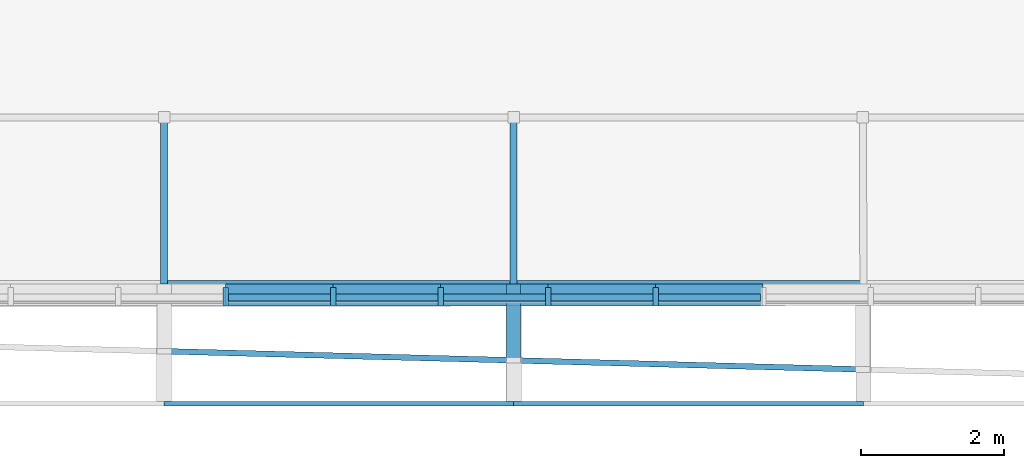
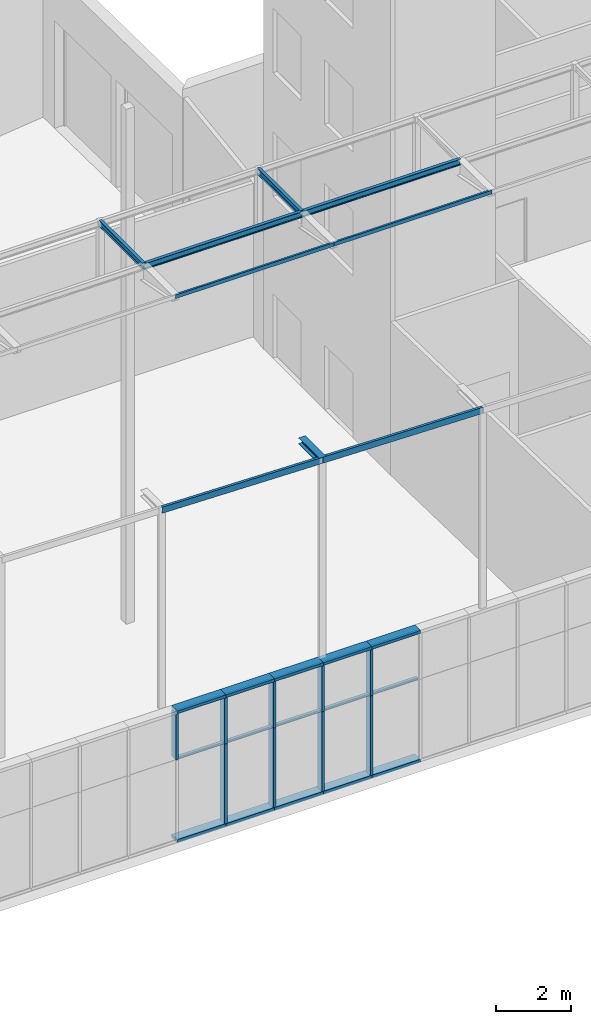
# One storey, part 7 of 40: 29 members, 9 beams, 1 element without a shape of its own.
"""IFC2X3 building model written with IfcOpenShell, lengths in metres."""

from ifc_helpers import new_model, entity, si_unit, converted_unit, money_unit, point, direction, frame, frame_2d, origin_with_axes, place, context, subcontext, project, spatial, polyline, circle_curve, parameter, trimmed, segment, composite_curve, outline, extrude, clip, halfspace, material, type_object, element, aggregate, save


model = new_model("IFC2X3")

# Units and contexts
model_context = context("Model", 3, precision=1e-05, world=origin_with_axes(), true_north=direction((0.0, 1.0)))
body_context = subcontext(model_context, "Body", "Model", "MODEL_VIEW")
ifc_project = project(units=[si_unit("LENGTHUNIT", "METRE"), si_unit("AREAUNIT", "SQUARE_METRE"), si_unit("VOLUMEUNIT", "CUBIC_METRE"), converted_unit("PLANEANGLEUNIT", "DEGREE", entity("IfcPlaneAngleMeasure", 0.0174532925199), si_unit("PLANEANGLEUNIT", "RADIAN"), dimensions=[0, 0, 0, 0, 0, 0, 0]), si_unit("SOLIDANGLEUNIT", "STERADIAN"), money_unit("EUR"), converted_unit("TIMEUNIT", "Year", entity("IfcTimeMeasure", 31556926.0), si_unit("TIMEUNIT", "SECOND"), dimensions=[0, 0, 0, 0, 0, 0, 0]), si_unit("MASSUNIT", "GRAM"), si_unit("THERMODYNAMICTEMPERATUREUNIT", "DEGREE_CELSIUS"), si_unit("LUMINOUSINTENSITYUNIT", "LUMEN")], contexts=[model_context])

# Site, building, storey
site_placement = place(None, origin_with_axes())
site = spatial("IfcSite", under=ifc_project, at=site_placement, Name="Undefined", CompositionType="ELEMENT")
building_placement = place(site_placement, origin_with_axes())
building = spatial("IfcBuilding", under=site, at=building_placement, Name="Undefined", CompositionType="ELEMENT")
storey_placement = place(building_placement, origin_with_axes())
storey = spatial("IfcBuildingStorey", under=building, at=storey_placement, Name="Rez de chauss\x8ee", CompositionType="ELEMENT", Elevation=0.0)

# Beams
ifc_material_1 = material(Name="STEEL/S235JRG2 3386696625")
beam_type_1 = type_object("IfcBeamType", Name="IPE200", PredefinedType="NOTDEFINED")
beam_1_placement = place(storey_placement, frame((19.5000006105, 0.0, 19.025), z_axis=(0.0, 0.0, 1.0), x_axis=(4.30770086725e-05, -0.999999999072, 0.0)))
element("IfcBeam", 1, at=beam_1_placement, inside=storey, type_object=beam_type_1, material=ifc_material_1, Name="Poutre", ObjectType="BEAM", context=body_context, shape_type="SweptSolid", body=[
    extrude(outline(composite_curve([segment(polyline([(0.05, -0.1), (0.05, -0.0915), (0.0147999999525, -0.0915)]), True, "CONTINUOUS"), segment(trimmed(circle_curve(frame_2d((0.0147999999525, -0.0795), x_axis=(-1.0, 0.0)), 0.012), [point((0.0147999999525, -0.0915)), parameter(90.0)], [point((0.0027999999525, -0.0795)), parameter(0.0)], False, "CARTESIAN"), True, "CONTINUOUS"), segment(polyline([(0.0027999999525, -0.0795), (0.0027999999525, 0.0795)]), True, "CONTINUOUS"), segment(trimmed(circle_curve(frame_2d((0.0147999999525, 0.0795), x_axis=(0.0, 1.0)), 0.012), [point((0.0027999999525, 0.0795)), parameter(90.0)], [point((0.0147999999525, 0.0915)), parameter(0.0)], False, "CARTESIAN"), True, "CONTINUOUS"), segment(polyline([(0.0147999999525, 0.0915), (0.05, 0.0915), (0.05, 0.1), (-0.05, 0.1), (-0.05, 0.0915), (-0.0147999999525, 0.0915)]), True, "CONTINUOUS"), segment(trimmed(circle_curve(frame_2d((-0.0147999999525, 0.0795), x_axis=(1.0, 0.0)), 0.012), [point((-0.0147999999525, 0.0915)), parameter(90.0)], [point((-0.0027999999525, 0.0795)), parameter(0.0)], False, "CARTESIAN"), True, "CONTINUOUS"), segment(polyline([(-0.0027999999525, 0.0795), (-0.0027999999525, -0.0795)]), True, "CONTINUOUS"), segment(trimmed(circle_curve(frame_2d((-0.0147999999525, -0.0795), x_axis=(0.0, -1.0)), 0.012), [point((-0.0027999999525, -0.0795)), parameter(90.0)], [point((-0.0147999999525, -0.0915)), parameter(0.0)], False, "CARTESIAN"), True, "CONTINUOUS"), segment(polyline([(-0.0147999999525, -0.0915), (-0.05, -0.0915), (-0.05, -0.1), (0.05, -0.1)]), True, "CONTINUOUS")], self_intersect=False)), frame((0.0, 4.87500000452, 0.0), z_axis=(0.0, -1.0, 0.0), x_axis=(1.0, 0.0, 0.0)), (0.0, 0.0, 1.0), 4.87500000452),
])
beam_2_placement = place(storey_placement, frame((19.4999995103, 5.24917442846e-10, 19.0250002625), z_axis=(0.0, 0.0, 1.0), x_axis=(1.0, 0.0, 0.0)))
element("IfcBeam", 2, at=beam_2_placement, inside=storey, type_object=beam_type_1, material=ifc_material_1, Name="Poutre", ObjectType="BEAM", context=body_context, shape_type="SweptSolid", body=[
    extrude(outline(composite_curve([segment(polyline([(0.05, -0.1), (0.05, -0.0915), (0.0147999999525, -0.0915)]), True, "CONTINUOUS"), segment(trimmed(circle_curve(frame_2d((0.0147999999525, -0.0795), x_axis=(-1.0, 0.0)), 0.012), [point((0.0147999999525, -0.0915)), parameter(90.0)], [point((0.0027999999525, -0.0795)), parameter(0.0)], False, "CARTESIAN"), True, "CONTINUOUS"), segment(polyline([(0.0027999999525, -0.0795), (0.0027999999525, 0.0795)]), True, "CONTINUOUS"), segment(trimmed(circle_curve(frame_2d((0.0147999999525, 0.0795), x_axis=(0.0, 1.0)), 0.012), [point((0.0027999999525, 0.0795)), parameter(90.0)], [point((0.0147999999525, 0.0915)), parameter(0.0)], False, "CARTESIAN"), True, "CONTINUOUS"), segment(polyline([(0.0147999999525, 0.0915), (0.05, 0.0915), (0.05, 0.1), (-0.05, 0.1), (-0.05, 0.0915), (-0.0147999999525, 0.0915)]), True, "CONTINUOUS"), segment(trimmed(circle_curve(frame_2d((-0.0147999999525, 0.0795), x_axis=(1.0, 0.0)), 0.012), [point((-0.0147999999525, 0.0915)), parameter(90.0)], [point((-0.0027999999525, 0.0795)), parameter(0.0)], False, "CARTESIAN"), True, "CONTINUOUS"), segment(polyline([(-0.0027999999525, 0.0795), (-0.0027999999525, -0.0795)]), True, "CONTINUOUS"), segment(trimmed(circle_curve(frame_2d((-0.0147999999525, -0.0795), x_axis=(0.0, -1.0)), 0.012), [point((-0.0027999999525, -0.0795)), parameter(90.0)], [point((-0.0147999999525, -0.0915)), parameter(0.0)], False, "CARTESIAN"), True, "CONTINUOUS"), segment(polyline([(-0.0147999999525, -0.0915), (-0.05, -0.0915), (-0.05, -0.1), (0.05, -0.1)]), True, "CONTINUOUS")], self_intersect=False)), frame((0.0, 2.32499999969, 0.0), z_axis=(0.0, -1.0, 0.0), x_axis=(1.0, 0.0, 0.0)), (0.0, 0.0, 1.0), 2.32499999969),
])
beam_3_placement = place(storey_placement, frame((14.6249995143, -4.67295117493e-06, 19.0250297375), z_axis=(0.0, 0.0, 1.0), x_axis=(1.0, 0.0, 0.0)))
element("IfcBeam", 3, at=beam_3_placement, inside=storey, type_object=beam_type_1, material=ifc_material_1, Name="BEAM", ObjectType="BEAM", context=body_context, shape_type="Clipping", body=[
    clip(clip(extrude(outline(composite_curve([segment(polyline([(0.05, -0.1), (0.05, -0.0915), (0.0147999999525, -0.0915)]), True, "CONTINUOUS"), segment(trimmed(circle_curve(frame_2d((0.0147999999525, -0.0795), x_axis=(-1.0, 0.0)), 0.012), [point((0.0147999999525, -0.0915)), parameter(90.0)], [point((0.0027999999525, -0.0795)), parameter(0.0)], False, "CARTESIAN"), True, "CONTINUOUS"), segment(polyline([(0.0027999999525, -0.0795), (0.0027999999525, 0.0795)]), True, "CONTINUOUS"), segment(trimmed(circle_curve(frame_2d((0.0147999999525, 0.0795), x_axis=(0.0, 1.0)), 0.012), [point((0.0027999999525, 0.0795)), parameter(90.0)], [point((0.0147999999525, 0.0915)), parameter(0.0)], False, "CARTESIAN"), True, "CONTINUOUS"), segment(polyline([(0.0147999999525, 0.0915), (0.05, 0.0915), (0.05, 0.1), (-0.05, 0.1), (-0.05, 0.0915), (-0.0147999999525, 0.0915)]), True, "CONTINUOUS"), segment(trimmed(circle_curve(frame_2d((-0.0147999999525, 0.0795), x_axis=(1.0, 0.0)), 0.012), [point((-0.0147999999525, 0.0915)), parameter(90.0)], [point((-0.0027999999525, 0.0795)), parameter(0.0)], False, "CARTESIAN"), True, "CONTINUOUS"), segment(polyline([(-0.0027999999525, 0.0795), (-0.0027999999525, -0.0795)]), True, "CONTINUOUS"), segment(trimmed(circle_curve(frame_2d((-0.0147999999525, -0.0795), x_axis=(0.0, -1.0)), 0.012), [point((-0.0027999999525, -0.0795)), parameter(90.0)], [point((-0.0147999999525, -0.0915)), parameter(0.0)], False, "CARTESIAN"), True, "CONTINUOUS"), segment(polyline([(-0.0147999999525, -0.0915), (-0.05, -0.0915), (-0.05, -0.1), (0.05, -0.1)]), True, "CONTINUOUS")], self_intersect=False)), frame((0.0, 2.32501018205, -2.79001147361e-05), z_axis=(0.0, -0.999999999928, 1.19999967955e-05), x_axis=(1.0, 0.0, 0.0)), (0.0, 0.0, 1.0), 2.32501357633), halfspace(frame((0.0, 3.39411164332e-06, 0.0), z_axis=(0.0, 0.999999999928, -1.19999967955e-05), x_axis=(0.0, 1.19999967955e-05, 0.999999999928)), True)), halfspace(frame((0.0, 2.32500339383, -2.79000332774e-05), z_axis=(0.0, -0.999999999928, 1.19999967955e-05), x_axis=(0.0, -1.19999967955e-05, -0.999999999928)), True)),
])
beam_4_placement = place(storey_placement, frame((14.6249993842, -1.18658156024e-10, 19.02503), z_axis=(0.0, 0.0, 1.0), x_axis=(0.0, -1.0, 0.0)))
element("IfcBeam", 4, at=beam_4_placement, inside=storey, type_object=beam_type_1, material=ifc_material_1, Name="BEAM", ObjectType="BEAM", context=body_context, shape_type="SweptSolid", body=[
    extrude(outline(composite_curve([segment(polyline([(0.05, -0.1), (0.05, -0.0915), (0.0147999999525, -0.0915)]), True, "CONTINUOUS"), segment(trimmed(circle_curve(frame_2d((0.0147999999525, -0.0795), x_axis=(-1.0, 0.0)), 0.012), [point((0.0147999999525, -0.0915)), parameter(90.0)], [point((0.0027999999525, -0.0795)), parameter(0.0)], False, "CARTESIAN"), True, "CONTINUOUS"), segment(polyline([(0.0027999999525, -0.0795), (0.0027999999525, 0.0795)]), True, "CONTINUOUS"), segment(trimmed(circle_curve(frame_2d((0.0147999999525, 0.0795), x_axis=(0.0, 1.0)), 0.012), [point((0.0027999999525, 0.0795)), parameter(90.0)], [point((0.0147999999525, 0.0915)), parameter(0.0)], False, "CARTESIAN"), True, "CONTINUOUS"), segment(polyline([(0.0147999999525, 0.0915), (0.05, 0.0915), (0.05, 0.1), (-0.05, 0.1), (-0.05, 0.0915), (-0.0147999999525, 0.0915)]), True, "CONTINUOUS"), segment(trimmed(circle_curve(frame_2d((-0.0147999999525, 0.0795), x_axis=(1.0, 0.0)), 0.012), [point((-0.0147999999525, 0.0915)), parameter(90.0)], [point((-0.0027999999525, 0.0795)), parameter(0.0)], False, "CARTESIAN"), True, "CONTINUOUS"), segment(polyline([(-0.0027999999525, 0.0795), (-0.0027999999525, -0.0795)]), True, "CONTINUOUS"), segment(trimmed(circle_curve(frame_2d((-0.0147999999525, -0.0795), x_axis=(0.0, -1.0)), 0.012), [point((-0.0027999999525, -0.0795)), parameter(90.0)], [point((-0.0147999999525, -0.0915)), parameter(0.0)], False, "CARTESIAN"), True, "CONTINUOUS"), segment(polyline([(-0.0147999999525, -0.0915), (-0.05, -0.0915), (-0.05, -0.1), (0.05, -0.1)]), True, "CONTINUOUS")], self_intersect=False)), frame((0.0, 4.875, 0.0), z_axis=(0.0, -1.0, 0.0), x_axis=(1.0, 0.0, 0.0)), (0.0, 0.0, 1.0), 4.875),
])
beam_type_2 = type_object("IfcBeamType", Name="UPE200", PredefinedType="NOTDEFINED")
for number, where, z_axis, x_axis, name in (
    (5, (19.5010354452, -1.06587322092, 11.65), (0.0, 0.0, 1.0), (-0.0258861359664, -0.999664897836, 0.0), "BEAM"),
    (6, (14.626035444, -0.938481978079, 11.65), (0.0, 0.0, 1.0), (-0.0258861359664, -0.999664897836, 0.0), "BEAM"),
):
    element("IfcBeam", number, at=place(storey_placement, frame(where, z_axis=z_axis, x_axis=x_axis)), inside=storey, type_object=beam_type_2, material=ifc_material_1, Name=name, ObjectType="BEAM", context=body_context, shape_type="SweptSolid", body=[
        extrude(outline(composite_curve([segment(polyline([(-0.04, -0.1), (0.04, -0.1), (0.04, -0.089), (-0.021, -0.089)]), True, "CONTINUOUS"), segment(trimmed(circle_curve(frame_2d((-0.021, -0.076), x_axis=(-1.0, 0.0)), 0.013), [point((-0.021, -0.089)), parameter(90.0)], [point((-0.034, -0.076)), parameter(0.0)], False, "CARTESIAN"), True, "CONTINUOUS"), segment(polyline([(-0.034, -0.076), (-0.034, 0.076)]), True, "CONTINUOUS"), segment(trimmed(circle_curve(frame_2d((-0.021, 0.076), x_axis=(0.0, 1.0)), 0.013), [point((-0.034, 0.076)), parameter(90.0)], [point((-0.021, 0.089)), parameter(0.0)], False, "CARTESIAN"), True, "CONTINUOUS"), segment(polyline([(-0.021, 0.089), (0.04, 0.089), (0.04, 0.1), (-0.04, 0.1), (-0.04, -0.1)]), True, "CONTINUOUS")], self_intersect=False)), frame((0.0, 4.87663417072, 0.0), z_axis=(0.0, -1.0, 0.0), x_axis=(-1.0, 0.0, 0.0)), (0.0, 0.0, 1.0), 4.87663417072),
    ])
beam_type_3 = type_object("IfcBeamType", Name="UPE120", PredefinedType="NOTDEFINED")
for number, where, z_axis, x_axis, name in (
    (7, (19.4999982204, -1.67, 19.045), (0.0, 0.0, 1.0), (4.3000029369e-05, -0.999999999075, 0.0), "Poutre"),
    (8, (14.6249982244, -1.67000000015, 19.045), (0.0, 0.0, 1.0), (4.3000029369e-05, -0.999999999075, 0.0), "Poutre"),
):
    element("IfcBeam", number, at=place(storey_placement, frame(where, z_axis=z_axis, x_axis=x_axis)), inside=storey, type_object=beam_type_3, material=ifc_material_1, Name=name, ObjectType="BEAM", context=body_context, shape_type="SweptSolid", body=[
        extrude(outline(composite_curve([segment(polyline([(-0.03, -0.06), (0.03, -0.06), (0.03, -0.052), (-0.013, -0.052)]), True, "CONTINUOUS"), segment(trimmed(circle_curve(frame_2d((-0.013, -0.04), x_axis=(-1.0, 0.0)), 0.012), [point((-0.013, -0.052)), parameter(90.0)], [point((-0.025, -0.04)), parameter(0.0)], False, "CARTESIAN"), True, "CONTINUOUS"), segment(polyline([(-0.025, -0.04), (-0.025, 0.04)]), True, "CONTINUOUS"), segment(trimmed(circle_curve(frame_2d((-0.013, 0.04), x_axis=(0.0, 1.0)), 0.012), [point((-0.025, 0.04)), parameter(90.0)], [point((-0.013, 0.052)), parameter(0.0)], False, "CARTESIAN"), True, "CONTINUOUS"), segment(polyline([(-0.013, 0.052), (0.03, 0.052), (0.03, 0.06), (-0.03, 0.06), (-0.03, -0.06)]), True, "CONTINUOUS")], self_intersect=False)), frame((0.0, 4.88246143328, 0.0), z_axis=(0.0, -1.0, 0.0), x_axis=(-1.0, 0.0, 0.0)), (0.0, 0.0, 1.0), 4.88246143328),
    ])
beam_type_4 = type_object("IfcBeamType", Name="HEB200", PredefinedType="NOTDEFINED")
beam_5_placement = place(storey_placement, frame((19.4999999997, 0.0, 11.65), z_axis=(0.0, 0.0, 1.0), x_axis=(-1.0, 0.0, 0.0)))
element("IfcBeam", 9, at=beam_5_placement, inside=storey, type_object=beam_type_4, material=ifc_material_1, Name="BEAM", ObjectType="BEAM", context=body_context, shape_type="SweptSolid", body=[
    extrude(outline(composite_curve([segment(polyline([(0.1, -0.1), (0.1, -0.085), (0.0225, -0.085)]), True, "CONTINUOUS"), segment(trimmed(circle_curve(frame_2d((0.0225, -0.067), x_axis=(-1.0, 0.0)), 0.018), [point((0.0225, -0.085)), parameter(90.0)], [point((0.0045, -0.067)), parameter(0.0)], False, "CARTESIAN"), True, "CONTINUOUS"), segment(polyline([(0.0045, -0.067), (0.0045, 0.067)]), True, "CONTINUOUS"), segment(trimmed(circle_curve(frame_2d((0.0225, 0.067), x_axis=(0.0, 1.0)), 0.018), [point((0.0045, 0.067)), parameter(90.0)], [point((0.0225, 0.085)), parameter(0.0)], False, "CARTESIAN"), True, "CONTINUOUS"), segment(polyline([(0.0225, 0.085), (0.1, 0.085), (0.1, 0.1), (-0.1, 0.1), (-0.1, 0.085), (-0.0225, 0.085)]), True, "CONTINUOUS"), segment(trimmed(circle_curve(frame_2d((-0.0225, 0.067), x_axis=(1.0, 0.0)), 0.018), [point((-0.0225, 0.085)), parameter(90.0)], [point((-0.0045, 0.067)), parameter(0.0)], False, "CARTESIAN"), True, "CONTINUOUS"), segment(polyline([(-0.0045, 0.067), (-0.0045, -0.067)]), True, "CONTINUOUS"), segment(trimmed(circle_curve(frame_2d((-0.0225, -0.067), x_axis=(0.0, -1.0)), 0.018), [point((-0.0045, -0.067)), parameter(90.0)], [point((-0.0225, -0.085)), parameter(0.0)], False, "CARTESIAN"), True, "CONTINUOUS"), segment(polyline([(-0.0225, -0.085), (-0.1, -0.085), (-0.1, -0.1), (0.1, -0.1)]), True, "CONTINUOUS")], self_intersect=False)), frame((0.0, 1.1059454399, 0.0), z_axis=(0.0, -1.0, 0.0), x_axis=(1.0, 0.0, 0.0)), (0.0, 0.0, 1.0), 1.1059454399),
])

# Curtain wall, members
curtain_wall_type = type_object("IfcCurtainWallType", Name="Type de mur-rideau", PredefinedType="NOTDEFINED")
curtain_wall_placement = place(storey_placement, frame((61.0415862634, -0.249999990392, 0.1), z_axis=(0.0, 0.0, 1.0), x_axis=(1.0, 0.0, 0.0)))
curtain_wall = element("IfcCurtainWall", 10, at=curtain_wall_placement, inside=storey, type_object=curtain_wall_type, Name="CurtainWall_02", ObjectType="CURTAIN WALL")
ifc_material_2 = material(Name="25 % 359672764")
member_type_1 = type_object("IfcMemberType", Name="Cadre 100 x 300", PredefinedType="NOTDEFINED")
member_1_placement = place(curtain_wall_placement, frame((-45.5584137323, 7.83910795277e-07, 0.0), z_axis=(1.0, -1.72067183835e-08, 0.0), x_axis=(0.0, 0.0, 1.0)))
member_1 = element("IfcMember", 11, at=member_1_placement, type_object=member_type_1, material=ifc_material_2, Name="Frame-Bnd-935", context=body_context, shape_type="SweptSolid", body=[
    extrude(outline(polyline([(-0.25, -0.1), (0.05, -0.1), (0.05, 0.0), (-0.25, 0.0), (-0.25, -0.1)])), frame((0.0, 0.0, 0.0), z_axis=(0.0, 0.0, 1.0), x_axis=(0.0, 1.0, 0.0)), (0.0, 0.0, 1.0), 1.5),
])
member_2_placement = place(curtain_wall_placement, frame((-44.0584137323, 7.58100717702e-07, 0.0), z_axis=(1.0, -1.72067183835e-08, 0.0), x_axis=(0.0, 0.0, 1.0)))
member_2 = element("IfcMember", 12, at=member_2_placement, type_object=member_type_1, material=ifc_material_2, Name="Frame-Bnd-934", context=body_context, shape_type="SweptSolid", body=[
    extrude(outline(polyline([(-0.25, -0.1), (0.05, -0.1), (0.05, 0.0), (-0.25, 0.0), (-0.25, -0.1)])), frame((0.0, 0.0, 0.0), z_axis=(0.0, 0.0, 1.0), x_axis=(0.0, 1.0, 0.0)), (0.0, 0.0, 1.0), 1.5),
])
member_3_placement = place(curtain_wall_placement, frame((-42.5584137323, 7.32290640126e-07, 0.0), z_axis=(1.0, -1.7206718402e-08, 0.0), x_axis=(0.0, 0.0, 1.0)))
member_3 = element("IfcMember", 13, at=member_3_placement, type_object=member_type_1, material=ifc_material_2, Name="Frame-Bnd-933", context=body_context, shape_type="SweptSolid", body=[
    extrude(outline(polyline([(-0.25, -0.1), (0.05, -0.1), (0.05, 0.0), (-0.25, 0.0), (-0.25, -0.1)])), frame((0.0, 0.0, 0.0), z_axis=(0.0, 0.0, 1.0), x_axis=(0.0, 1.0, 0.0)), (0.0, 0.0, 1.0), 1.5),
])
member_4_placement = place(curtain_wall_placement, frame((-41.0584137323, 7.06480562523e-07, 0.0), z_axis=(1.0, -1.72067183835e-08, 0.0), x_axis=(0.0, 0.0, 1.0)))
member_4 = element("IfcMember", 14, at=member_4_placement, type_object=member_type_1, material=ifc_material_2, Name="Frame-Bnd-932", context=body_context, shape_type="SweptSolid", body=[
    extrude(outline(polyline([(-0.25, -0.1), (0.05, -0.1), (0.05, 0.0), (-0.25, 0.0), (-0.25, -0.1)])), frame((0.0, 0.0, 0.0), z_axis=(0.0, 0.0, 1.0), x_axis=(0.0, 1.0, 0.0)), (0.0, 0.0, 1.0), 1.5),
])
member_5_placement = place(curtain_wall_placement, frame((-39.5584137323, 6.80670484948e-07, 0.0), z_axis=(1.0, -1.72067183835e-08, 0.0), x_axis=(0.0, 0.0, 1.0)))
member_5 = element("IfcMember", 15, at=member_5_placement, type_object=member_type_1, material=ifc_material_2, Name="Frame-Bnd-931", context=body_context, shape_type="SweptSolid", body=[
    extrude(outline(polyline([(-0.25, -0.1), (0.05, -0.1), (0.05, 0.0), (-0.25, 0.0), (-0.25, -0.1)])), frame((0.0, 0.0, 0.0), z_axis=(0.0, 0.0, 1.0), x_axis=(0.0, 1.0, 0.0)), (0.0, 0.0, 1.0), 1.5),
])
member_6_placement = place(curtain_wall_placement, frame((-38.0584137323, 6.54860407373e-07, 4.3), z_axis=(-1.0, 1.72067183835e-08, 0.0), x_axis=(0.0, 0.0, -1.0)))
member_6 = element("IfcMember", 16, at=member_6_placement, type_object=member_type_1, material=ifc_material_2, Name="Frame-Bnd-787", context=body_context, shape_type="SweptSolid", body=[
    extrude(outline(polyline([(0.25, 0.1), (-0.05, 0.1), (-0.05, 0.0), (0.25, 0.0), (0.25, 0.1)])), frame((0.0, 0.0, 0.0), z_axis=(0.0, 0.0, 1.0), x_axis=(0.0, -1.0, 0.0)), (0.0, 0.0, 1.0), 1.5),
])
member_7_placement = place(curtain_wall_placement, frame((-39.5584137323, 6.80670484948e-07, 4.3), z_axis=(-1.0, 1.72067183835e-08, 0.0), x_axis=(0.0, 0.0, -1.0)))
member_7 = element("IfcMember", 17, at=member_7_placement, type_object=member_type_1, material=ifc_material_2, Name="Frame-Bnd-786", context=body_context, shape_type="SweptSolid", body=[
    extrude(outline(polyline([(0.25, 0.1), (-0.05, 0.1), (-0.05, 0.0), (0.25, 0.0), (0.25, 0.1)])), frame((0.0, 0.0, 0.0), z_axis=(0.0, 0.0, 1.0), x_axis=(0.0, -1.0, 0.0)), (0.0, 0.0, 1.0), 1.5),
])
member_8_placement = place(curtain_wall_placement, frame((-41.0584137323, 7.06480562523e-07, 4.3), z_axis=(-1.0, 1.7206718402e-08, 0.0), x_axis=(0.0, 0.0, -1.0)))
member_8 = element("IfcMember", 18, at=member_8_placement, type_object=member_type_1, material=ifc_material_2, Name="Frame-Bnd-785", context=body_context, shape_type="SweptSolid", body=[
    extrude(outline(polyline([(0.25, 0.1), (-0.05, 0.1), (-0.05, 0.0), (0.25, 0.0), (0.25, 0.1)])), frame((0.0, 0.0, 0.0), z_axis=(0.0, 0.0, 1.0), x_axis=(0.0, -1.0, 0.0)), (0.0, 0.0, 1.0), 1.5),
])
member_9_placement = place(curtain_wall_placement, frame((-42.5584137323, 7.32290640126e-07, 4.3), z_axis=(-1.0, 1.72067183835e-08, 0.0), x_axis=(0.0, 0.0, -1.0)))
member_9 = element("IfcMember", 19, at=member_9_placement, type_object=member_type_1, material=ifc_material_2, Name="Frame-Bnd-784", context=body_context, shape_type="SweptSolid", body=[
    extrude(outline(polyline([(0.25, 0.1), (-0.05, 0.1), (-0.05, 0.0), (0.25, 0.0), (0.25, 0.1)])), frame((0.0, 0.0, 0.0), z_axis=(0.0, 0.0, 1.0), x_axis=(0.0, -1.0, 0.0)), (0.0, 0.0, 1.0), 1.5),
])
member_10_placement = place(curtain_wall_placement, frame((-44.0584137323, 7.58100717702e-07, 4.3), z_axis=(-1.0, 1.72067183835e-08, 0.0), x_axis=(0.0, 0.0, -1.0)))
member_10 = element("IfcMember", 20, at=member_10_placement, type_object=member_type_1, material=ifc_material_2, Name="Frame-Bnd-783", context=body_context, shape_type="SweptSolid", body=[
    extrude(outline(polyline([(0.25, 0.1), (-0.05, 0.1), (-0.05, 0.0), (0.25, 0.0), (0.25, 0.1)])), frame((0.0, 0.0, 0.0), z_axis=(0.0, 0.0, 1.0), x_axis=(0.0, -1.0, 0.0)), (0.0, 0.0, 1.0), 1.5),
])
member_type_2 = type_object("IfcMemberType", Name="Montant 80 x 250", PredefinedType="NOTDEFINED")
member_11_placement = place(curtain_wall_placement, frame((-44.0584137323, 7.58100717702e-07, 0.0), z_axis=(0.0, 0.0, 1.0), x_axis=(-1.0, 1.72067183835e-08, 0.0)))
member_11 = element("IfcMember", 21, at=member_11_placement, type_object=member_type_2, material=ifc_material_2, Name="Frame-Mll-283", context=body_context, shape_type="SweptSolid", body=[
    extrude(outline(polyline([(-0.0399999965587, 0.200000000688), (-0.0400000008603, -0.0499999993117), (0.0399999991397, -0.0500000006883), (0.0400000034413, 0.199999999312), (-0.0399999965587, 0.200000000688)])), frame((0.0, 0.0, 0.1), z_axis=(0.0, 0.0, 1.0), x_axis=(-1.0, -1.72067183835e-08, 0.0)), (0.0, 0.0, 1.0), 2.6),
])
member_12_placement = place(curtain_wall_placement, frame((-42.5584137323, 7.32290640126e-07, 0.0), z_axis=(0.0, 0.0, 1.0), x_axis=(-1.0, 1.72067183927e-08, 0.0)))
member_12 = element("IfcMember", 22, at=member_12_placement, type_object=member_type_2, material=ifc_material_2, Name="Frame-Mll-283", context=body_context, shape_type="SweptSolid", body=[
    extrude(outline(polyline([(-0.0399999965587, 0.200000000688), (-0.0400000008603, -0.0499999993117), (0.0399999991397, -0.0500000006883), (0.0400000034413, 0.199999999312), (-0.0399999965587, 0.200000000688)])), frame((0.0, 0.0, 0.1), z_axis=(0.0, 0.0, 1.0), x_axis=(-1.0, -1.72067183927e-08, 0.0)), (0.0, 0.0, 1.0), 2.6),
])
member_13_placement = place(curtain_wall_placement, frame((-41.0584137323, 7.06480562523e-07, 0.0), z_axis=(0.0, 0.0, 1.0), x_axis=(-1.0, 1.72067183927e-08, 0.0)))
member_13 = element("IfcMember", 23, at=member_13_placement, type_object=member_type_2, material=ifc_material_2, Name="Frame-Mll-283", context=body_context, shape_type="SweptSolid", body=[
    extrude(outline(polyline([(-0.0399999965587, 0.200000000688), (-0.0400000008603, -0.0499999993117), (0.0399999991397, -0.0500000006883), (0.0400000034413, 0.199999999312), (-0.0399999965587, 0.200000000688)])), frame((0.0, 0.0, 0.1), z_axis=(0.0, 0.0, 1.0), x_axis=(-1.0, -1.72067183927e-08, 0.0)), (0.0, 0.0, 1.0), 2.6),
])
member_14_placement = place(curtain_wall_placement, frame((-39.5584137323, 6.80670484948e-07, 0.0), z_axis=(0.0, 0.0, 1.0), x_axis=(-1.0, 1.72067183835e-08, 0.0)))
member_14 = element("IfcMember", 24, at=member_14_placement, type_object=member_type_2, material=ifc_material_2, Name="Frame-Mll-283", context=body_context, shape_type="SweptSolid", body=[
    extrude(outline(polyline([(-0.0399999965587, 0.200000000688), (-0.0400000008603, -0.0499999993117), (0.0399999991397, -0.0500000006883), (0.0400000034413, 0.199999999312), (-0.0399999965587, 0.200000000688)])), frame((0.0, 0.0, 0.1), z_axis=(0.0, 0.0, 1.0), x_axis=(-1.0, -1.72067183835e-08, 0.0)), (0.0, 0.0, 1.0), 2.6),
])
member_15_placement = place(curtain_wall_placement, frame((-45.5584137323, 7.83910795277e-07, 2.7), z_axis=(0.0, 0.0, 1.0), x_axis=(-1.0, 1.72067183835e-08, 0.0)))
member_15 = element("IfcMember", 25, at=member_15_placement, type_object=member_type_2, material=ifc_material_2, Name="Frame-Mll-658", context=body_context, shape_type="SweptSolid", body=[
    extrude(outline(polyline([(-0.0399999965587, 0.200000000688), (-0.0400000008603, -0.0499999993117), (0.0399999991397, -0.0500000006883), (0.0400000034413, 0.199999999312), (-0.0399999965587, 0.200000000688)])), frame((0.0, 0.0, 0.0), z_axis=(0.0, 0.0, 1.0), x_axis=(-1.0, -1.72067183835e-08, 0.0)), (0.0, 0.0, 1.0), 1.5),
])
member_16_placement = place(curtain_wall_placement, frame((-44.0584137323, 7.58100717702e-07, 2.7), z_axis=(0.0, 0.0, 1.0), x_axis=(-1.0, 1.72067183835e-08, 0.0)))
member_16 = element("IfcMember", 26, at=member_16_placement, type_object=member_type_2, material=ifc_material_2, Name="Frame-Mll-659", context=body_context, shape_type="SweptSolid", body=[
    extrude(outline(polyline([(-0.0399999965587, 0.200000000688), (-0.0400000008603, -0.0499999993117), (0.0399999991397, -0.0500000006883), (0.0400000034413, 0.199999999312), (-0.0399999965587, 0.200000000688)])), frame((0.0, 0.0, 0.0), z_axis=(0.0, 0.0, 1.0), x_axis=(-1.0, -1.72067183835e-08, 0.0)), (0.0, 0.0, 1.0), 1.5),
])
member_17_placement = place(curtain_wall_placement, frame((-42.5584137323, 7.32290640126e-07, 2.7), z_axis=(0.0, 0.0, 1.0), x_axis=(-1.0, 1.72067183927e-08, 0.0)))
member_17 = element("IfcMember", 27, at=member_17_placement, type_object=member_type_2, material=ifc_material_2, Name="Frame-Mll-660", context=body_context, shape_type="SweptSolid", body=[
    extrude(outline(polyline([(-0.0399999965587, 0.200000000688), (-0.0400000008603, -0.0499999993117), (0.0399999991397, -0.0500000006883), (0.0400000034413, 0.199999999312), (-0.0399999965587, 0.200000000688)])), frame((0.0, 0.0, 0.0), z_axis=(0.0, 0.0, 1.0), x_axis=(-1.0, -1.72067183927e-08, 0.0)), (0.0, 0.0, 1.0), 1.5),
])
member_18_placement = place(curtain_wall_placement, frame((-41.0584137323, 7.06480562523e-07, 2.7), z_axis=(0.0, 0.0, 1.0), x_axis=(-1.0, 1.72067183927e-08, 0.0)))
member_18 = element("IfcMember", 28, at=member_18_placement, type_object=member_type_2, material=ifc_material_2, Name="Frame-Mll-661", context=body_context, shape_type="SweptSolid", body=[
    extrude(outline(polyline([(-0.0399999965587, 0.200000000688), (-0.0400000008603, -0.0499999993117), (0.0399999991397, -0.0500000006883), (0.0400000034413, 0.199999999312), (-0.0399999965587, 0.200000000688)])), frame((0.0, 0.0, 0.0), z_axis=(0.0, 0.0, 1.0), x_axis=(-1.0, -1.72067183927e-08, 0.0)), (0.0, 0.0, 1.0), 1.5),
])
member_19_placement = place(curtain_wall_placement, frame((-39.5584137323, 6.80670484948e-07, 2.7), z_axis=(0.0, 0.0, 1.0), x_axis=(-1.0, 1.72067183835e-08, 0.0)))
member_19 = element("IfcMember", 29, at=member_19_placement, type_object=member_type_2, material=ifc_material_2, Name="Frame-Mll-662", context=body_context, shape_type="SweptSolid", body=[
    extrude(outline(polyline([(-0.0399999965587, 0.200000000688), (-0.0400000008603, -0.0499999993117), (0.0399999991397, -0.0500000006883), (0.0400000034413, 0.199999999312), (-0.0399999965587, 0.200000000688)])), frame((0.0, 0.0, 0.0), z_axis=(0.0, 0.0, 1.0), x_axis=(-1.0, -1.72067183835e-08, 0.0)), (0.0, 0.0, 1.0), 1.5),
])
member_type_3 = type_object("IfcMemberType", Name="Traverse 60 x 100", PredefinedType="NOTDEFINED")
member_20_placement = place(curtain_wall_placement, frame((-45.5584137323, 7.83910795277e-07, 2.7), z_axis=(1.0, -1.72067183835e-08, 0.0), x_axis=(0.0, 0.0, 1.0)))
member_20 = element("IfcMember", 30, at=member_20_placement, type_object=member_type_3, material=ifc_material_2, Name="Frame-Trs-922", context=body_context, shape_type="SweptSolid", body=[
    extrude(outline(polyline([(-0.11, -0.03), (-0.01, -0.03), (-0.01, 0.03), (-0.11, 0.03), (-0.11, -0.03)])), frame((0.0, 0.0, 0.04), z_axis=(0.0, 0.0, 1.0), x_axis=(0.0, 1.0, 0.0)), (0.0, 0.0, 1.0), 1.42),
])
member_21_placement = place(curtain_wall_placement, frame((-44.0584137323, 7.58100717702e-07, 2.7), z_axis=(1.0, -1.72067183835e-08, 0.0), x_axis=(0.0, 0.0, 1.0)))
member_21 = element("IfcMember", 31, at=member_21_placement, type_object=member_type_3, material=ifc_material_2, Name="Frame-Trs-922", context=body_context, shape_type="SweptSolid", body=[
    extrude(outline(polyline([(-0.11, -0.03), (-0.01, -0.03), (-0.01, 0.03), (-0.11, 0.03), (-0.11, -0.03)])), frame((0.0, 0.0, 0.04), z_axis=(0.0, 0.0, 1.0), x_axis=(0.0, 1.0, 0.0)), (0.0, 0.0, 1.0), 1.42),
])
member_22_placement = place(curtain_wall_placement, frame((-42.5584137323, 7.32290640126e-07, 2.7), z_axis=(1.0, -1.7206718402e-08, 0.0), x_axis=(0.0, 0.0, 1.0)))
member_22 = element("IfcMember", 32, at=member_22_placement, type_object=member_type_3, material=ifc_material_2, Name="Frame-Trs-922", context=body_context, shape_type="SweptSolid", body=[
    extrude(outline(polyline([(-0.11, -0.03), (-0.01, -0.03), (-0.01, 0.03), (-0.11, 0.03), (-0.11, -0.03)])), frame((0.0, 0.0, 0.04), z_axis=(0.0, 0.0, 1.0), x_axis=(0.0, 1.0, 0.0)), (0.0, 0.0, 1.0), 1.42),
])
member_23_placement = place(curtain_wall_placement, frame((-41.0584137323, 7.06480562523e-07, 2.7), z_axis=(1.0, -1.72067183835e-08, 0.0), x_axis=(0.0, 0.0, 1.0)))
member_23 = element("IfcMember", 33, at=member_23_placement, type_object=member_type_3, material=ifc_material_2, Name="Frame-Trs-922", context=body_context, shape_type="SweptSolid", body=[
    extrude(outline(polyline([(-0.11, -0.03), (-0.01, -0.03), (-0.01, 0.03), (-0.11, 0.03), (-0.11, -0.03)])), frame((0.0, 0.0, 0.04), z_axis=(0.0, 0.0, 1.0), x_axis=(0.0, 1.0, 0.0)), (0.0, 0.0, 1.0), 1.42),
])
member_24_placement = place(curtain_wall_placement, frame((-39.5584137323, 6.80670484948e-07, 2.7), z_axis=(1.0, -1.72067183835e-08, 0.0), x_axis=(0.0, 0.0, 1.0)))
member_24 = element("IfcMember", 34, at=member_24_placement, type_object=member_type_3, material=ifc_material_2, Name="Frame-Trs-922", context=body_context, shape_type="SweptSolid", body=[
    extrude(outline(polyline([(-0.11, -0.03), (-0.01, -0.03), (-0.01, 0.03), (-0.11, 0.03), (-0.11, -0.03)])), frame((0.0, 0.0, 0.04), z_axis=(0.0, 0.0, 1.0), x_axis=(0.0, 1.0, 0.0)), (0.0, 0.0, 1.0), 1.42),
])
member_25_placement = place(curtain_wall_placement, frame((-45.5584137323, 7.83910795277e-07, 4.2), z_axis=(1.0, -1.72067183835e-08, 0.0), x_axis=(0.0, 0.0, 1.0)))
member_25 = element("IfcMember", 35, at=member_25_placement, type_object=member_type_3, material=ifc_material_2, Name="Frame-Trs-227", context=body_context, shape_type="SweptSolid", body=[
    extrude(outline(polyline([(-0.11, -0.03), (-0.01, -0.03), (-0.01, 0.03), (-0.11, 0.03), (-0.11, -0.03)])), frame((0.0, 0.0, 0.04), z_axis=(0.0, 0.0, 1.0), x_axis=(0.0, 1.0, 0.0)), (0.0, 0.0, 1.0), 1.42),
])
member_26_placement = place(curtain_wall_placement, frame((-44.0584137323, 7.58100717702e-07, 4.2), z_axis=(1.0, -1.72067183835e-08, 0.0), x_axis=(0.0, 0.0, 1.0)))
member_26 = element("IfcMember", 36, at=member_26_placement, type_object=member_type_3, material=ifc_material_2, Name="Frame-Trs-227", context=body_context, shape_type="SweptSolid", body=[
    extrude(outline(polyline([(-0.11, -0.03), (-0.01, -0.03), (-0.01, 0.03), (-0.11, 0.03), (-0.11, -0.03)])), frame((0.0, 0.0, 0.04), z_axis=(0.0, 0.0, 1.0), x_axis=(0.0, 1.0, 0.0)), (0.0, 0.0, 1.0), 1.42),
])
member_27_placement = place(curtain_wall_placement, frame((-42.5584137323, 7.32290640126e-07, 4.2), z_axis=(1.0, -1.7206718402e-08, 0.0), x_axis=(0.0, 0.0, 1.0)))
member_27 = element("IfcMember", 37, at=member_27_placement, type_object=member_type_3, material=ifc_material_2, Name="Frame-Trs-227", context=body_context, shape_type="SweptSolid", body=[
    extrude(outline(polyline([(-0.11, -0.03), (-0.01, -0.03), (-0.01, 0.03), (-0.11, 0.03), (-0.11, -0.03)])), frame((0.0, 0.0, 0.04), z_axis=(0.0, 0.0, 1.0), x_axis=(0.0, 1.0, 0.0)), (0.0, 0.0, 1.0), 1.42),
])
member_28_placement = place(curtain_wall_placement, frame((-41.0584137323, 7.06480562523e-07, 4.2), z_axis=(1.0, -1.72067183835e-08, 0.0), x_axis=(0.0, 0.0, 1.0)))
member_28 = element("IfcMember", 38, at=member_28_placement, type_object=member_type_3, material=ifc_material_2, Name="Frame-Trs-227", context=body_context, shape_type="SweptSolid", body=[
    extrude(outline(polyline([(-0.11, -0.03), (-0.01, -0.03), (-0.01, 0.03), (-0.11, 0.03), (-0.11, -0.03)])), frame((0.0, 0.0, 0.04), z_axis=(0.0, 0.0, 1.0), x_axis=(0.0, 1.0, 0.0)), (0.0, 0.0, 1.0), 1.42),
])
member_29_placement = place(curtain_wall_placement, frame((-39.5584137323, 6.80670484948e-07, 4.2), z_axis=(1.0, -1.72067183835e-08, 0.0), x_axis=(0.0, 0.0, 1.0)))
member_29 = element("IfcMember", 39, at=member_29_placement, type_object=member_type_3, material=ifc_material_2, Name="Frame-Trs-227", context=body_context, shape_type="SweptSolid", body=[
    extrude(outline(polyline([(-0.11, -0.03), (-0.01, -0.03), (-0.01, 0.03), (-0.11, 0.03), (-0.11, -0.03)])), frame((0.0, 0.0, 0.04), z_axis=(0.0, 0.0, 1.0), x_axis=(0.0, 1.0, 0.0)), (0.0, 0.0, 1.0), 1.42),
])
aggregate(curtain_wall, [member_11, member_12, member_13, member_14, member_1, member_2, member_3, member_4, member_5, member_20, member_21, member_22, member_23, member_24, member_15, member_16, member_17, member_18, member_19, member_25, member_26, member_27, member_28, member_29, member_6, member_7, member_8, member_9, member_10])

save(model, "model.ifc")
